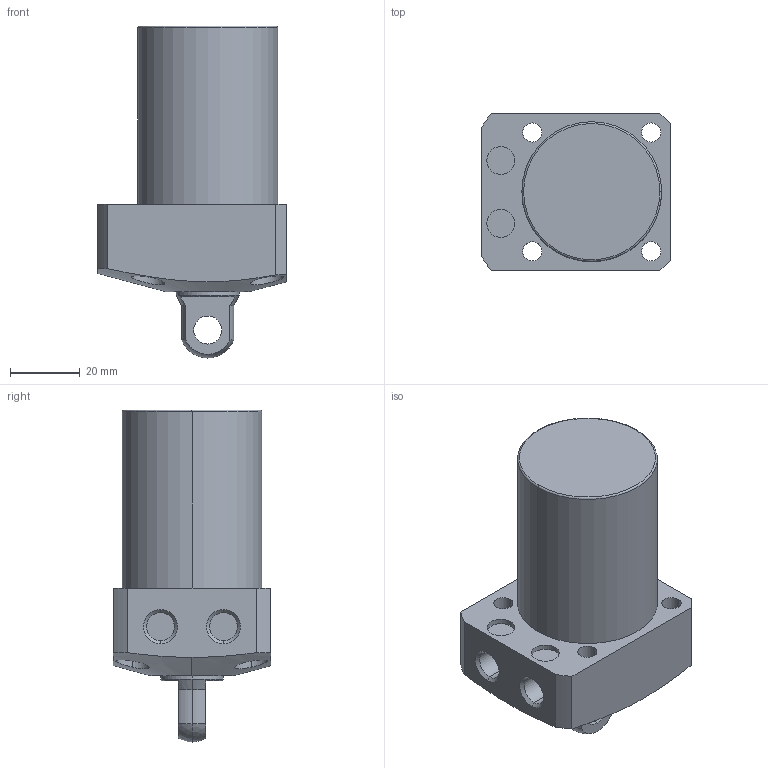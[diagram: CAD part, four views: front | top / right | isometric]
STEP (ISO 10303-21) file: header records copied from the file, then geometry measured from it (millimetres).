
FILE_DESCRIPTION (( 'STEP AP203' ), '1' );
FILE_NAME ('CLL-0400-CP-40.STEP', '2017-05-09T06:42:08', ( '' ), ( '' ), 'SwSTEP 2.0', 'SolidWorks 2015', '' );
FILE_SCHEMA (( 'CONFIG_CONTROL_DESIGN' ));
Length unit declared in the file: millimetre
Products named in the file (1): CLL-0400-CP-40
Bounding box: 54 x 45 x 95 mm (x, y, z)
Volume: 116132 mm3; surface area: 18337.8 mm2
Topology: 1 solids, 1 shells, 68 faces, 159 edges, 103 vertices
Faces by surface type: cylinder 35, plane 21, cone 8, sphere 2, torus 2
Entity records: 2379 total; most frequent: CARTESIAN_POINT 682, DIRECTION 357, ORIENTED_EDGE 318, EDGE_CURVE 159, AXIS2_PLACEMENT_3D 149, VERTEX_POINT 103, EDGE_LOOP 88, CIRCLE 80
